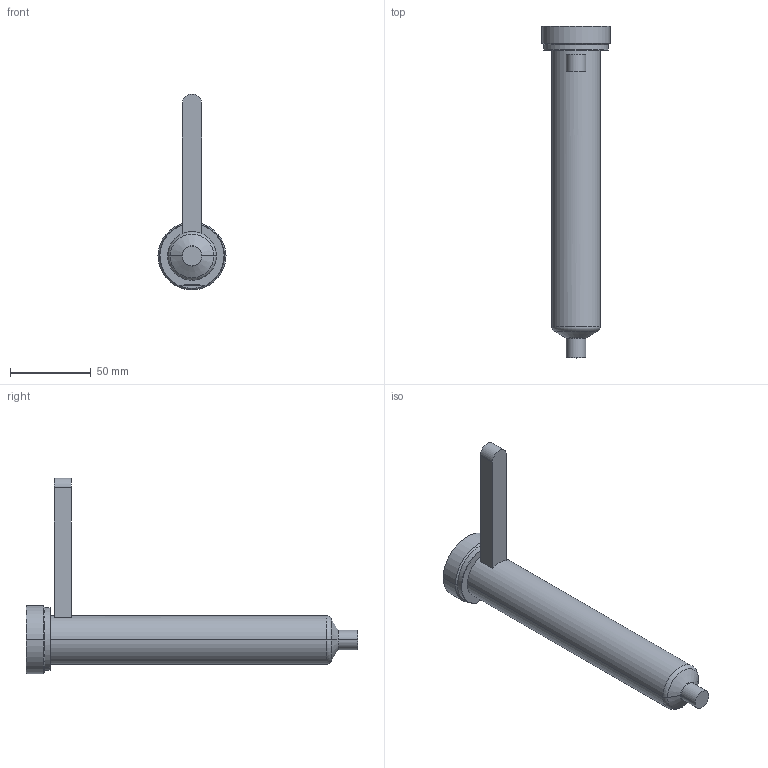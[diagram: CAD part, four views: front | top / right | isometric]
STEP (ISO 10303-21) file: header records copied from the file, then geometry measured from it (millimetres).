
FILE_DESCRIPTION((''),'2;1');
FILE_NAME('EO08_VG-FBE_WR_180_COT','2024-02-19T13:57:24',('sundharh'),(''),'CREO PARAMETRIC BY PTC INC, 2023154','CREO PARAMETRIC BY PTC INC, 2023154','');
FILE_SCHEMA(('CONFIG_CONTROL_DESIGN'));
Length unit declared in the file: millimetre
Products named in the file (1): EO08_VG-FBE_WR_180_COT
Bounding box: 42 x 205 x 121 mm (x, y, z)
Volume: 155998.8 mm3; surface area: 25192.1 mm2
Topology: 1 solids, 1 shells, 31 faces, 67 edges, 40 vertices
Faces by surface type: cylinder 11, plane 9, torus 7, cone 4
Entity records: 951 total; most frequent: CARTESIAN_POINT 218, DIRECTION 159, ORIENTED_EDGE 134, AXIS2_PLACEMENT_3D 67, EDGE_CURVE 67, VERTEX_POINT 40, CIRCLE 36, EDGE_LOOP 33
